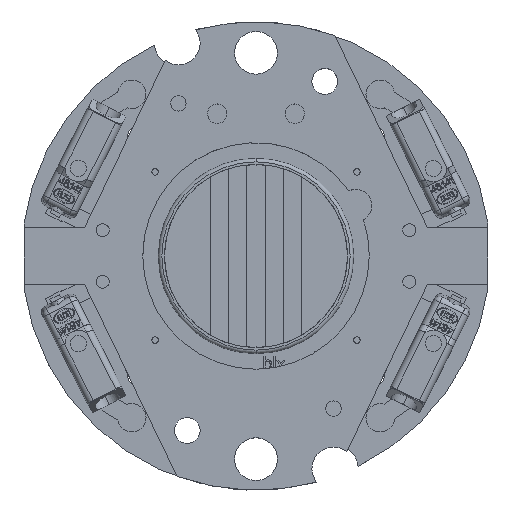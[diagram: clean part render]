
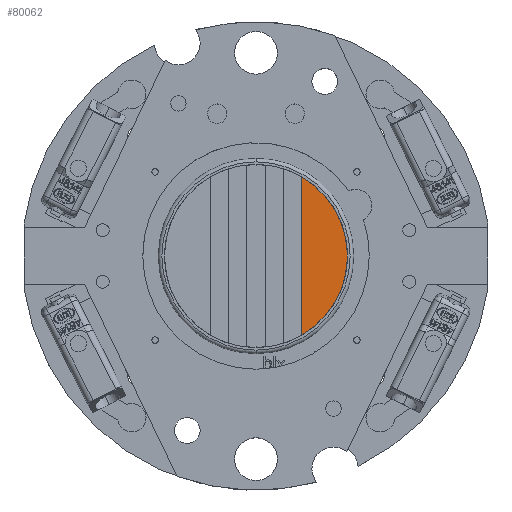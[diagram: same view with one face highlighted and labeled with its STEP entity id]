
A CAD part, top view. The second image highlights one B-rep face of the part: STEP entity #80062.
In plain terms, the highlighted planar face has unit normal (0, 0, 1).
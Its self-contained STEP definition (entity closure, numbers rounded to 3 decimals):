
#292 = DIRECTION ( 'NONE',  ( 0., 0., -1. ) ) ;
#2950 = CARTESIAN_POINT ( 'NONE',  ( 0., 0., 0.617 ) ) ;
#7745 = CARTESIAN_POINT ( 'NONE',  ( 3.5, -6.137, 0.617 ) ) ;
#9474 = CARTESIAN_POINT ( 'NONE',  ( 3.5, 10.433, 0.617 ) ) ;
#11030 = AXIS2_PLACEMENT_3D ( 'NONE', #2950, #67429, #23601 ) ;
#16664 = AXIS2_PLACEMENT_3D ( 'NONE', #18865, #292, #37771 ) ;
#18865 = CARTESIAN_POINT ( 'NONE',  ( -7.065, 0., 0.617 ) ) ;
#19905 = ORIENTED_EDGE ( 'NONE', *, *, #37473, .F. ) ;
#20145 = VECTOR ( 'NONE', #22126, 1000. ) ;
#22126 = DIRECTION ( 'NONE',  ( 0., 1., 0. ) ) ;
#23601 = DIRECTION ( 'NONE',  ( 0., 1., 0. ) ) ;
#24666 = VERTEX_POINT ( 'NONE', #7745 ) ;
#28911 = VERTEX_POINT ( 'NONE', #79278 ) ;
#29762 = EDGE_LOOP ( 'NONE', ( #74344, #19905 ) ) ;
#37473 = EDGE_CURVE ( 'NONE', #24666, #28911, #80334, .T. ) ;
#37771 = DIRECTION ( 'NONE',  ( 0., 1., 0. ) ) ;
#41987 = FACE_OUTER_BOUND ( 'NONE', #29762, .T. ) ;
#55569 = PLANE ( 'NONE',  #16664 ) ;
#59474 = EDGE_CURVE ( 'NONE', #28911, #24666, #68887, .T. ) ;
#67429 = DIRECTION ( 'NONE',  ( 0., 0., -1. ) ) ;
#68887 = CIRCLE ( 'NONE', #11030, 7.065 ) ;
#74344 = ORIENTED_EDGE ( 'NONE', *, *, #59474, .F. ) ;
#79278 = CARTESIAN_POINT ( 'NONE',  ( 3.5, 6.137, 0.617 ) ) ;
#80062 = ADVANCED_FACE ( 'NONE', ( #41987 ), #55569, .F. ) ;
#80334 = LINE ( 'NONE', #9474, #20145 ) ;
